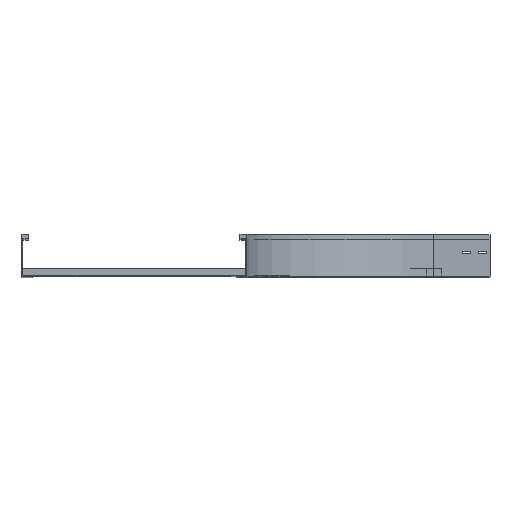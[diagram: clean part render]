
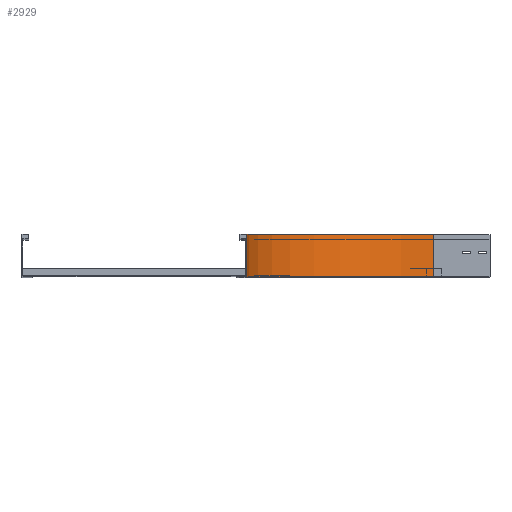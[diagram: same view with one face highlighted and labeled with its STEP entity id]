
A CAD part, top view. The second image highlights one B-rep face of the part: STEP entity #2929.
In plain terms, the highlighted cylindrical face has radius 500 mm (diameter 1000 mm), a partial arc.
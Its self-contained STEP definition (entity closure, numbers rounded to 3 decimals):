
#9 = AXIS2_PLACEMENT_3D ( 'NONE', #1214, #819, #2831 ) ;
#94 = ORIENTED_EDGE ( 'NONE', *, *, #2571, .T. ) ;
#524 = CARTESIAN_POINT ( 'NONE',  ( 0., 0., -150. ) ) ;
#562 = VECTOR ( 'NONE', #918, 1000. ) ;
#819 = DIRECTION ( 'NONE',  ( 0., -1., 0. ) ) ;
#918 = DIRECTION ( 'NONE',  ( 0., 1., 0. ) ) ;
#992 = DIRECTION ( 'NONE',  ( -1., 0., 0. ) ) ;
#1147 = FACE_OUTER_BOUND ( 'NONE', #3177, .T. ) ;
#1178 = CIRCLE ( 'NONE', #3454, 500. ) ;
#1181 = CARTESIAN_POINT ( 'NONE',  ( 500., 0., -150. ) ) ;
#1214 = CARTESIAN_POINT ( 'NONE',  ( 500., 0., -150. ) ) ;
#1306 = ORIENTED_EDGE ( 'NONE', *, *, #2958, .T. ) ;
#1516 = LINE ( 'NONE', #524, #562 ) ;
#1585 = DIRECTION ( 'NONE',  ( 0., -1., 0. ) ) ;
#1597 = CIRCLE ( 'NONE', #1868, 500. ) ;
#1631 = CARTESIAN_POINT ( 'NONE',  ( 0., 0., -150. ) ) ;
#1692 = VERTEX_POINT ( 'NONE', #3095 ) ;
#1822 = ORIENTED_EDGE ( 'NONE', *, *, #4207, .F. ) ;
#1868 = AXIS2_PLACEMENT_3D ( 'NONE', #3347, #3021, #992 ) ;
#1967 = VERTEX_POINT ( 'NONE', #3012 ) ;
#2491 = DIRECTION ( 'NONE',  ( -1., 0., 0. ) ) ;
#2568 = ORIENTED_EDGE ( 'NONE', *, *, #3853, .F. ) ;
#2570 = DIRECTION ( 'NONE',  ( 0., 1., 0. ) ) ;
#2571 = EDGE_CURVE ( 'NONE', #2782, #2880, #1178, .T. ) ;
#2612 = CARTESIAN_POINT ( 'NONE',  ( 500., 0., -650. ) ) ;
#2628 = VECTOR ( 'NONE', #2570, 1000. ) ;
#2782 = VERTEX_POINT ( 'NONE', #1631 ) ;
#2804 = CARTESIAN_POINT ( 'NONE',  ( 500., 0., -650. ) ) ;
#2831 = DIRECTION ( 'NONE',  ( 0., 0., -1. ) ) ;
#2880 = VERTEX_POINT ( 'NONE', #2804 ) ;
#2929 = ADVANCED_FACE ( 'NONE', ( #1147 ), #3158, .F. ) ;
#2958 = EDGE_CURVE ( 'NONE', #2880, #1967, #4211, .T. ) ;
#3012 = CARTESIAN_POINT ( 'NONE',  ( 500., 112.5, -650. ) ) ;
#3021 = DIRECTION ( 'NONE',  ( 0., -1., 0. ) ) ;
#3095 = CARTESIAN_POINT ( 'NONE',  ( 0., 112.5, -150. ) ) ;
#3158 = CYLINDRICAL_SURFACE ( 'NONE', #9, 500. ) ;
#3177 = EDGE_LOOP ( 'NONE', ( #2568, #1822, #94, #1306 ) ) ;
#3347 = CARTESIAN_POINT ( 'NONE',  ( 500., 112.5, -150. ) ) ;
#3454 = AXIS2_PLACEMENT_3D ( 'NONE', #1181, #1585, #2491 ) ;
#3853 = EDGE_CURVE ( 'NONE', #1692, #1967, #1597, .T. ) ;
#4207 = EDGE_CURVE ( 'NONE', #2782, #1692, #1516, .T. ) ;
#4211 = LINE ( 'NONE', #2612, #2628 ) ;
